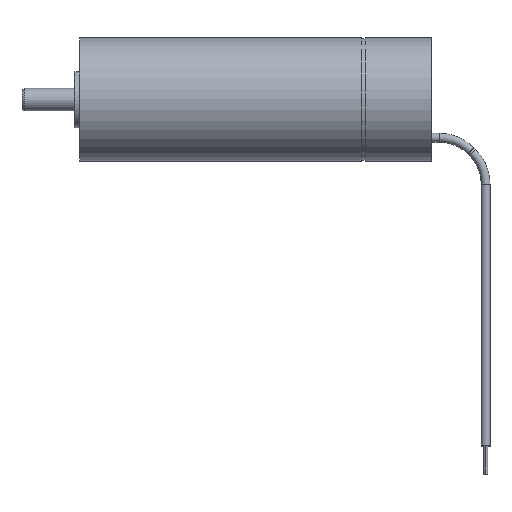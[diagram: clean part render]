
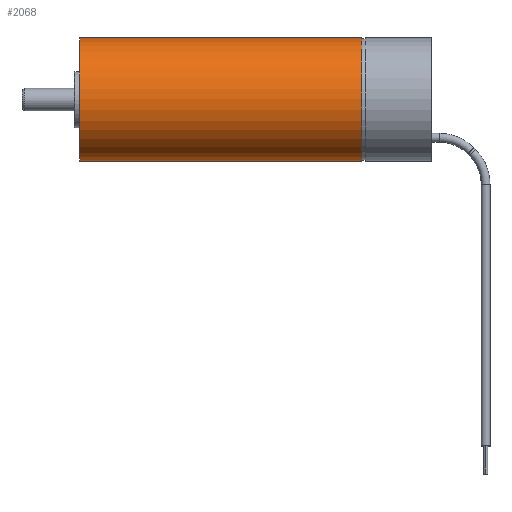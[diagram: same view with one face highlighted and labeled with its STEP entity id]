
A CAD part, top view. The second image highlights one B-rep face of the part: STEP entity #2068.
In plain terms, the highlighted cylindrical face has radius 11 mm (diameter 22 mm), a partial arc.
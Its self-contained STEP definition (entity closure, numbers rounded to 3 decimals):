
#57=CARTESIAN_POINT('',(50.3,0.,0.));
#58=DIRECTION('',(-1.,0.,0.));
#59=DIRECTION('',(0.,-1.,0.));
#60=AXIS2_PLACEMENT_3D('',#57,#58,#59);
#77=DIRECTION('',(-1.,0.,0.));
#78=VECTOR('',#77,50.3);
#79=CARTESIAN_POINT('',(50.3,11.,0.));
#80=LINE('',#79,#78);
#81=DIRECTION('',(1.,0.,0.));
#82=VECTOR('',#81,50.3);
#83=CARTESIAN_POINT('',(0.,-11.,0.));
#84=LINE('',#83,#82);
#90=CARTESIAN_POINT('',(0.,0.,0.));
#91=DIRECTION('',(1.,0.,0.));
#92=DIRECTION('',(0.,1.,0.));
#93=AXIS2_PLACEMENT_3D('',#90,#91,#92);
#1566=CARTESIAN_POINT('',(50.3,-11.,0.));
#1567=CARTESIAN_POINT('',(50.3,11.,0.));
#1568=VERTEX_POINT('',#1566);
#1569=VERTEX_POINT('',#1567);
#1586=CARTESIAN_POINT('',(0.,11.,0.));
#1587=VERTEX_POINT('',#1586);
#1588=CARTESIAN_POINT('',(0.,-11.,0.));
#1589=VERTEX_POINT('',#1588);
#2054=CARTESIAN_POINT('',(0.,0.,0.));
#2055=DIRECTION('',(1.,0.,0.));
#2056=DIRECTION('',(0.,-1.,0.));
#2057=AXIS2_PLACEMENT_3D('',#2054,#2055,#2056);
#2058=CYLINDRICAL_SURFACE('',#2057,11.);
#2059=ORIENTED_EDGE('',*,*,#2043,.F.);
#2061=ORIENTED_EDGE('',*,*,#2060,.F.);
#2063=ORIENTED_EDGE('',*,*,#2062,.F.);
#2065=ORIENTED_EDGE('',*,*,#2064,.F.);
#2066=EDGE_LOOP('',(#2059,#2061,#2063,#2065));
#2067=FACE_OUTER_BOUND('',#2066,.F.);
#2068=ADVANCED_FACE('',(#2067),#2058,.T.);
#61=CIRCLE('',#60,11.);
#94=CIRCLE('',#93,11.);
#2043=EDGE_CURVE('',#1568,#1569,#61,.T.);
#2060=EDGE_CURVE('',#1589,#1568,#84,.T.);
#2062=EDGE_CURVE('',#1587,#1589,#94,.T.);
#2064=EDGE_CURVE('',#1569,#1587,#80,.T.);
